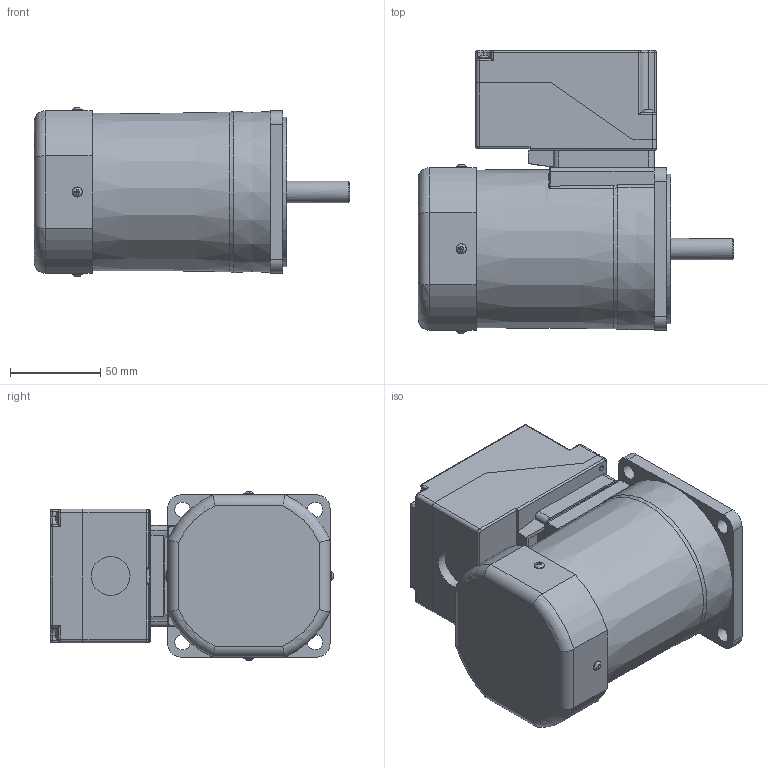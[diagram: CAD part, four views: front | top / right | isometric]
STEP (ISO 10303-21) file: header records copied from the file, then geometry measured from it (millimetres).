
FILE_DESCRIPTION(/* description */ (''),/* implementation_level */ '2;1');
FILE_NAME(/* name */ 'E:\도면작업\2016\0704) 미주향 SG 도면\3D MOTOR\TERMINAL BOX TYPE\INDUCTION TERMINAL BOX\SG9I90K_-T2.stp',/* time_stamp */ '2017-01-23T19:32:28+09:00',/* author */ ('jy-jung'),/* organization */ (''),/* preprocessor_version */ 'ST-DEVELOPER v15.6',/* originating_system */ 'Autodesk Inventor 2015',/* authorisation */ '');
FILE_SCHEMA (('AUTOMOTIVE_DESIGN { 1 0 10303 214 3 1 1 }'));
Length unit declared in the file: millimetre
Products named in the file (1): 부품2
Bounding box: 174.8 x 156.95 x 93.89 mm (x, y, z)
Volume: 1026173.4 mm3; surface area: 143161.1 mm2
Topology: 1 solids, 9 shells, 945 faces, 2493 edges, 1594 vertices
Faces by surface type: plane 500, cylinder 307, bspline 57, torus 45, cone 24, sphere 12
Full cylindrical faces by diameter (mm): 2.5 x4, 3 x8, 3.2 x3, 3.4 x1, 3.5 x4, 4.2 x1, 4.5 x8, 5.5 x8, 5.6 x4, 6.9 x4, 8.5 x4, 12 x1, 21.5 x1, 40 x1, 83 x1
Entity records: 31472 total; most frequent: CARTESIAN_POINT 7662, ORIENTED_EDGE 4716, DIRECTION 4666, EDGE_CURVE 2358, AXIS2_PLACEMENT_3D 1645, VERTEX_POINT 1576, LINE 1376, VECTOR 1376
